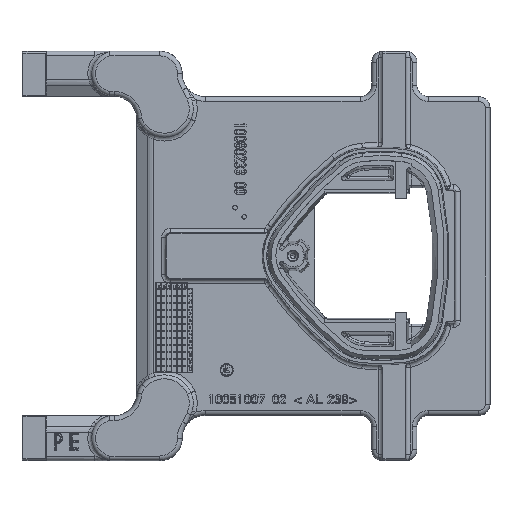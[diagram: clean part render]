
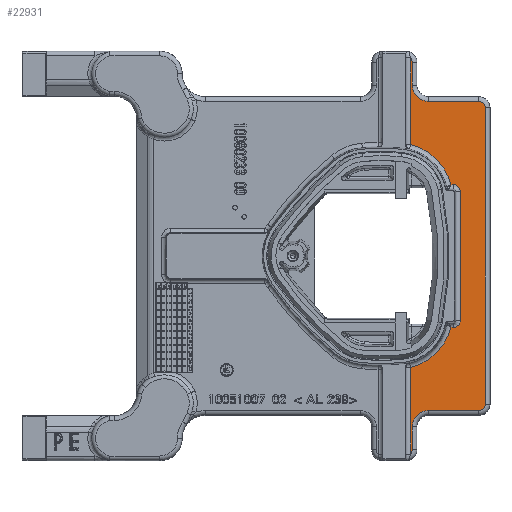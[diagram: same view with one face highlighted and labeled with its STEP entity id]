
A CAD part, top view. The second image highlights one B-rep face of the part: STEP entity #22931.
In plain terms, the highlighted planar face has unit normal (0, 0, 1).
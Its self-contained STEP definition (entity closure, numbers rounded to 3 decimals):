
#35=AXIS2_PLACEMENT_3D('Plane Axis2P3D',#32,#33,#34) ;
#15646=AXIS2_PLACEMENT_3D('Circle Axis2P3D',#15644,#15645,$) ;
#15717=AXIS2_PLACEMENT_3D('Circle Axis2P3D',#15715,#15716,$) ;
#15765=AXIS2_PLACEMENT_3D('Circle Axis2P3D',#15763,#15764,$) ;
#15813=AXIS2_PLACEMENT_3D('Circle Axis2P3D',#15811,#15812,$) ;
#15861=AXIS2_PLACEMENT_3D('Circle Axis2P3D',#15859,#15860,$) ;
#15902=AXIS2_PLACEMENT_3D('Circle Axis2P3D',#15900,#15901,$) ;
#22844=AXIS2_PLACEMENT_3D('Circle Axis2P3D',#22842,#22843,$) ;
#22906=AXIS2_PLACEMENT_3D('Circle Axis2P3D',#22904,#22905,$) ;
#32=CARTESIAN_POINT('Axis2P3D Location',(0.,0.,5.5)) ;
#15605=CARTESIAN_POINT('Vertex',(-22.877,-86.941,5.5)) ;
#15644=CARTESIAN_POINT('Axis2P3D Location',(-25.,85.,5.5)) ;
#15648=CARTESIAN_POINT('Vertex',(-22.123,85.,5.5)) ;
#15650=CARTESIAN_POINT('Vertex',(-22.877,86.941,5.5)) ;
#15688=CARTESIAN_POINT('Vertex',(-22.123,75.,5.5)) ;
#15691=CARTESIAN_POINT('Line Origine',(-22.123,0.,5.5)) ;
#15712=CARTESIAN_POINT('Vertex',(-15.,67.877,5.5)) ;
#15715=CARTESIAN_POINT('Axis2P3D Location',(-15.,75.,5.5)) ;
#15736=CARTESIAN_POINT('Vertex',(7.,67.877,5.5)) ;
#15739=CARTESIAN_POINT('Line Origine',(-6.441,67.877,5.5)) ;
#15760=CARTESIAN_POINT('Vertex',(9.877,65.,5.5)) ;
#15763=CARTESIAN_POINT('Axis2P3D Location',(7.,65.,5.5)) ;
#15784=CARTESIAN_POINT('Vertex',(9.877,-65.,5.5)) ;
#15787=CARTESIAN_POINT('Line Origine',(9.877,-17.363,5.5)) ;
#15808=CARTESIAN_POINT('Vertex',(7.,-67.877,5.5)) ;
#15811=CARTESIAN_POINT('Axis2P3D Location',(7.,-65.,5.5)) ;
#15832=CARTESIAN_POINT('Vertex',(-15.,-67.877,5.5)) ;
#15835=CARTESIAN_POINT('Line Origine',(-6.441,-67.877,5.5)) ;
#15856=CARTESIAN_POINT('Vertex',(-22.123,-75.,5.5)) ;
#15859=CARTESIAN_POINT('Axis2P3D Location',(-15.,-75.,5.5)) ;
#15880=CARTESIAN_POINT('Vertex',(-22.123,-85.,5.5)) ;
#15883=CARTESIAN_POINT('Line Origine',(-22.123,0.,5.5)) ;
#15900=CARTESIAN_POINT('Axis2P3D Location',(-25.,-85.,5.5)) ;
#15921=CARTESIAN_POINT('Vertex',(-22.877,-48.871,5.5)) ;
#15931=CARTESIAN_POINT('Line Origine',(-22.877,-0.465,5.5)) ;
#16070=CARTESIAN_POINT('Vertex',(-22.877,48.871,5.5)) ;
#16073=CARTESIAN_POINT('Line Origine',(-22.877,0.,5.5)) ;
#22681=CARTESIAN_POINT('Vertex',(-5.205,-31.354,5.5)) ;
#22801=CARTESIAN_POINT('Vertex',(-5.205,31.354,5.5)) ;
#22842=CARTESIAN_POINT('Axis2P3D Location',(-28.525,25.5,5.5)) ;
#22847=CARTESIAN_POINT('Line Origine',(-4.641,31.354,5.5)) ;
#22851=CARTESIAN_POINT('Vertex',(-4.077,31.354,5.5)) ;
#22855=CARTESIAN_POINT('Control Point',(-1.079,28.356,5.5)) ;
#22856=CARTESIAN_POINT('Control Point',(-1.079,28.475,5.5)) ;
#22857=CARTESIAN_POINT('Control Point',(-1.084,28.593,5.5)) ;
#22858=CARTESIAN_POINT('Control Point',(-1.096,28.712,5.5)) ;
#22859=CARTESIAN_POINT('Control Point',(-1.162,29.156,5.5)) ;
#22860=CARTESIAN_POINT('Control Point',(-1.311,29.583,5.5)) ;
#22861=CARTESIAN_POINT('Control Point',(-1.463,29.881,5.5)) ;
#22862=CARTESIAN_POINT('Control Point',(-1.845,30.427,5.5)) ;
#22863=CARTESIAN_POINT('Control Point',(-2.361,30.849,5.5)) ;
#22864=CARTESIAN_POINT('Control Point',(-2.647,31.023,5.5)) ;
#22865=CARTESIAN_POINT('Control Point',(-3.104,31.221,5.5)) ;
#22866=CARTESIAN_POINT('Control Point',(-3.588,31.321,5.5)) ;
#22867=CARTESIAN_POINT('Control Point',(-3.75,31.343,5.5)) ;
#22868=CARTESIAN_POINT('Control Point',(-3.914,31.354,5.5)) ;
#22869=CARTESIAN_POINT('Control Point',(-4.077,31.354,5.5)) ;
#22870=CARTESIAN_POINT('Vertex',(-1.079,28.356,5.5)) ;
#22873=CARTESIAN_POINT('Line Origine',(-1.079,0.,5.5)) ;
#22877=CARTESIAN_POINT('Vertex',(-1.079,-28.356,5.5)) ;
#22881=CARTESIAN_POINT('Control Point',(-4.077,-31.354,5.5)) ;
#22882=CARTESIAN_POINT('Control Point',(-3.958,-31.354,5.5)) ;
#22883=CARTESIAN_POINT('Control Point',(-3.84,-31.349,5.5)) ;
#22884=CARTESIAN_POINT('Control Point',(-3.721,-31.337,5.5)) ;
#22885=CARTESIAN_POINT('Control Point',(-3.277,-31.271,5.5)) ;
#22886=CARTESIAN_POINT('Control Point',(-2.85,-31.122,5.5)) ;
#22887=CARTESIAN_POINT('Control Point',(-2.552,-30.97,5.5)) ;
#22888=CARTESIAN_POINT('Control Point',(-2.006,-30.588,5.5)) ;
#22889=CARTESIAN_POINT('Control Point',(-1.584,-30.072,5.5)) ;
#22890=CARTESIAN_POINT('Control Point',(-1.41,-29.786,5.5)) ;
#22891=CARTESIAN_POINT('Control Point',(-1.212,-29.329,5.5)) ;
#22892=CARTESIAN_POINT('Control Point',(-1.112,-28.845,5.5)) ;
#22893=CARTESIAN_POINT('Control Point',(-1.09,-28.683,5.5)) ;
#22894=CARTESIAN_POINT('Control Point',(-1.079,-28.52,5.5)) ;
#22895=CARTESIAN_POINT('Control Point',(-1.079,-28.356,5.5)) ;
#22896=CARTESIAN_POINT('Vertex',(-4.077,-31.354,5.5)) ;
#22899=CARTESIAN_POINT('Line Origine',(-4.641,-31.354,5.5)) ;
#22904=CARTESIAN_POINT('Axis2P3D Location',(-28.525,-25.5,5.5)) ;
#33=DIRECTION('Axis2P3D Direction',(0.,0.,1.)) ;
#34=DIRECTION('Axis2P3D XDirection',(1.,0.,0.)) ;
#15645=DIRECTION('Axis2P3D Direction',(0.,0.,1.)) ;
#15692=DIRECTION('Vector Direction',(0.,1.,0.)) ;
#15716=DIRECTION('Axis2P3D Direction',(0.,-0.,1.)) ;
#15740=DIRECTION('Vector Direction',(1.,0.,0.)) ;
#15764=DIRECTION('Axis2P3D Direction',(0.,0.,1.)) ;
#15788=DIRECTION('Vector Direction',(0.,1.,0.)) ;
#15812=DIRECTION('Axis2P3D Direction',(0.,-0.,1.)) ;
#15836=DIRECTION('Vector Direction',(-1.,0.,0.)) ;
#15860=DIRECTION('Axis2P3D Direction',(-0.,0.,1.)) ;
#15884=DIRECTION('Vector Direction',(0.,-1.,0.)) ;
#15901=DIRECTION('Axis2P3D Direction',(0.,0.,1.)) ;
#15932=DIRECTION('Vector Direction',(0.,-1.,0.)) ;
#16074=DIRECTION('Vector Direction',(0.,-1.,0.)) ;
#22843=DIRECTION('Axis2P3D Direction',(0.,0.,1.)) ;
#22848=DIRECTION('Vector Direction',(1.,0.,0.)) ;
#22874=DIRECTION('Vector Direction',(0.,1.,0.)) ;
#22900=DIRECTION('Vector Direction',(-1.,0.,0.)) ;
#22905=DIRECTION('Axis2P3D Direction',(0.,0.,1.)) ;
#15693=VECTOR('Line Direction',#15692,1.) ;
#15741=VECTOR('Line Direction',#15740,1.) ;
#15789=VECTOR('Line Direction',#15788,1.) ;
#15837=VECTOR('Line Direction',#15836,1.) ;
#15885=VECTOR('Line Direction',#15884,1.) ;
#15933=VECTOR('Line Direction',#15932,1.) ;
#16075=VECTOR('Line Direction',#16074,1.) ;
#22849=VECTOR('Line Direction',#22848,1.) ;
#22875=VECTOR('Line Direction',#22874,1.) ;
#22901=VECTOR('Line Direction',#22900,1.) ;
#22910=ORIENTED_EDGE('',*,*,#15935,.F.) ;
#22911=ORIENTED_EDGE('',*,*,#15904,.T.) ;
#22912=ORIENTED_EDGE('',*,*,#15887,.T.) ;
#22913=ORIENTED_EDGE('',*,*,#15863,.T.) ;
#22914=ORIENTED_EDGE('',*,*,#15839,.T.) ;
#22915=ORIENTED_EDGE('',*,*,#15815,.T.) ;
#22916=ORIENTED_EDGE('',*,*,#15791,.T.) ;
#22917=ORIENTED_EDGE('',*,*,#15767,.T.) ;
#22918=ORIENTED_EDGE('',*,*,#15743,.T.) ;
#22919=ORIENTED_EDGE('',*,*,#15719,.T.) ;
#22920=ORIENTED_EDGE('',*,*,#15695,.T.) ;
#22921=ORIENTED_EDGE('',*,*,#15652,.T.) ;
#22922=ORIENTED_EDGE('',*,*,#16077,.F.) ;
#22923=ORIENTED_EDGE('',*,*,#22846,.T.) ;
#22924=ORIENTED_EDGE('',*,*,#22853,.T.) ;
#22925=ORIENTED_EDGE('',*,*,#22872,.T.) ;
#22926=ORIENTED_EDGE('',*,*,#22879,.T.) ;
#22927=ORIENTED_EDGE('',*,*,#22898,.T.) ;
#22928=ORIENTED_EDGE('',*,*,#22903,.T.) ;
#22929=ORIENTED_EDGE('',*,*,#22908,.T.) ;
#22931=ADVANCED_FACE('Adapter komplett',(#22930),#36,.T.) ;
#22854=B_SPLINE_CURVE_WITH_KNOTS('',5,(#22855,#22856,#22857,#22858,#22859,#22860,#22861,#22862,#22863,#22864,#22865,#22866,#22867,#22868,#22869),.UNSPECIFIED.,.F.,.U.,(6,3,3,3,6),(7.463,8.088,9.827,11.568,12.428),.UNSPECIFIED.) ;
#22880=B_SPLINE_CURVE_WITH_KNOTS('',5,(#22881,#22882,#22883,#22884,#22885,#22886,#22887,#22888,#22889,#22890,#22891,#22892,#22893,#22894,#22895),.UNSPECIFIED.,.F.,.U.,(6,3,3,3,6),(7.463,8.088,9.827,11.568,12.428),.UNSPECIFIED.) ;
#15647=CIRCLE('generated circle',#15646,2.877) ;
#15718=CIRCLE('generated circle',#15717,7.123) ;
#15766=CIRCLE('generated circle',#15765,2.877) ;
#15814=CIRCLE('generated circle',#15813,2.877) ;
#15862=CIRCLE('generated circle',#15861,7.123) ;
#15903=CIRCLE('generated circle',#15902,2.877) ;
#22845=CIRCLE('generated circle',#22844,24.044) ;
#22907=CIRCLE('generated circle',#22906,24.044) ;
#15652=EDGE_CURVE('',#15649,#15651,#15647,.T.) ;
#15695=EDGE_CURVE('',#15689,#15649,#15694,.T.) ;
#15719=EDGE_CURVE('',#15713,#15689,#15718,.F.) ;
#15743=EDGE_CURVE('',#15737,#15713,#15742,.F.) ;
#15767=EDGE_CURVE('',#15761,#15737,#15766,.T.) ;
#15791=EDGE_CURVE('',#15785,#15761,#15790,.T.) ;
#15815=EDGE_CURVE('',#15809,#15785,#15814,.T.) ;
#15839=EDGE_CURVE('',#15833,#15809,#15838,.F.) ;
#15863=EDGE_CURVE('',#15857,#15833,#15862,.F.) ;
#15887=EDGE_CURVE('',#15881,#15857,#15886,.F.) ;
#15904=EDGE_CURVE('',#15606,#15881,#15903,.T.) ;
#15935=EDGE_CURVE('',#15606,#15922,#15934,.F.) ;
#16077=EDGE_CURVE('',#16071,#15651,#16076,.F.) ;
#22846=EDGE_CURVE('',#16071,#22802,#22845,.F.) ;
#22853=EDGE_CURVE('',#22802,#22852,#22850,.T.) ;
#22872=EDGE_CURVE('',#22852,#22871,#22854,.F.) ;
#22879=EDGE_CURVE('',#22871,#22878,#22876,.F.) ;
#22898=EDGE_CURVE('',#22878,#22897,#22880,.F.) ;
#22903=EDGE_CURVE('',#22897,#22682,#22902,.T.) ;
#22908=EDGE_CURVE('',#22682,#15922,#22907,.F.) ;
#22909=EDGE_LOOP('',(#22910,#22911,#22912,#22913,#22914,#22915,#22916,#22917,#22918,#22919,#22920,#22921,#22922,#22923,#22924,#22925,#22926,#22927,#22928,#22929)) ;
#22930=FACE_OUTER_BOUND('',#22909,.T.) ;
#15694=LINE('Line',#15691,#15693) ;
#15742=LINE('Line',#15739,#15741) ;
#15790=LINE('Line',#15787,#15789) ;
#15838=LINE('Line',#15835,#15837) ;
#15886=LINE('Line',#15883,#15885) ;
#15934=LINE('Line',#15931,#15933) ;
#16076=LINE('Line',#16073,#16075) ;
#22850=LINE('Line',#22847,#22849) ;
#22876=LINE('Line',#22873,#22875) ;
#22902=LINE('Line',#22899,#22901) ;
#36=PLANE('Plane',#35) ;
#15606=VERTEX_POINT('',#15605) ;
#15649=VERTEX_POINT('',#15648) ;
#15651=VERTEX_POINT('',#15650) ;
#15689=VERTEX_POINT('',#15688) ;
#15713=VERTEX_POINT('',#15712) ;
#15737=VERTEX_POINT('',#15736) ;
#15761=VERTEX_POINT('',#15760) ;
#15785=VERTEX_POINT('',#15784) ;
#15809=VERTEX_POINT('',#15808) ;
#15833=VERTEX_POINT('',#15832) ;
#15857=VERTEX_POINT('',#15856) ;
#15881=VERTEX_POINT('',#15880) ;
#15922=VERTEX_POINT('',#15921) ;
#16071=VERTEX_POINT('',#16070) ;
#22682=VERTEX_POINT('',#22681) ;
#22802=VERTEX_POINT('',#22801) ;
#22852=VERTEX_POINT('',#22851) ;
#22871=VERTEX_POINT('',#22870) ;
#22878=VERTEX_POINT('',#22877) ;
#22897=VERTEX_POINT('',#22896) ;
